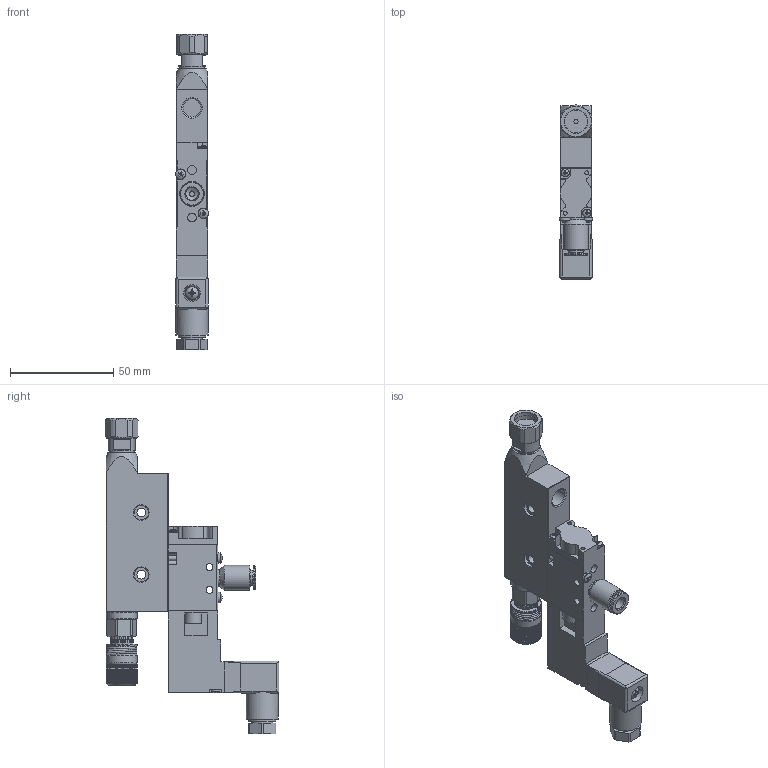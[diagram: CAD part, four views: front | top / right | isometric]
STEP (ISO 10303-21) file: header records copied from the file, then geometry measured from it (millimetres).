
FILE_DESCRIPTION (( 'STEP AP214' ), '1' );
FILE_NAME ('DA-400EV-MG.STEP', '2024-10-11T09:50:35', ( '' ), ( '' ), 'SwSTEP 2.0', 'SolidWorks 2024', '' );
FILE_SCHEMA (( 'AUTOMOTIVE_DESIGN' ));
Length unit declared in the file: millimetre
Products named in the file (1): DA-400EV-MG
Bounding box: 16 x 83.99 x 152.25 mm (x, y, z)
Volume: 73184 mm3; surface area: 29706.9 mm2
Topology: 4 solids, 4 shells, 1045 faces, 2789 edges, 1793 vertices
Faces by surface type: plane 612, cylinder 296, cone 91, torus 28, sphere 11, bspline 7
Full cylindrical faces by diameter (mm): 1 x2, 1.5 x1, 1.6 x1, 2 x4, 2.5 x9, 2.7 x5, 3 x6, 3.2 x3, 3.3 x2, 3.5 x4, 4 x4, 4.2 x6, 4.5 x1, 5 x4, 5.5 x1, 6.15 x1, 7 x4, 7.3 x1, 7.5 x1, 8 x2, 8.8 x1, 8.85 x1, 10 x1, 10.4 x1, 10.5 x1, 11 x1, 11.5 x1, 12 x2, 12.3 x1, 12.85 x1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
Entity records: 41860 total; most frequent: CARTESIAN_POINT 18454, ORIENTED_EDGE 5094, DIRECTION 4132, EDGE_CURVE 2547, VERTEX_POINT 1711, AXIS2_PLACEMENT_3D 1480, EDGE_LOOP 1298, VECTOR 1172
